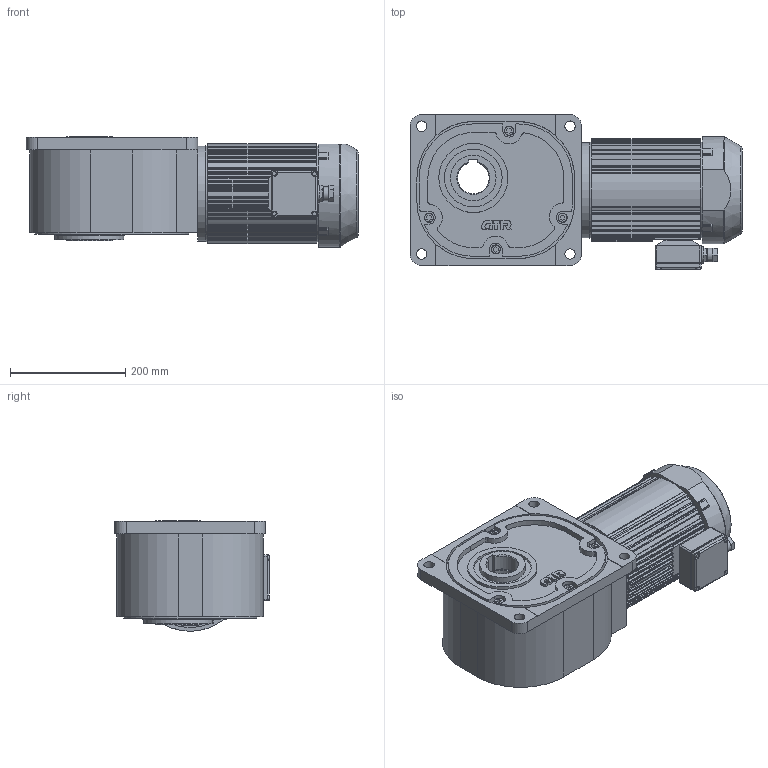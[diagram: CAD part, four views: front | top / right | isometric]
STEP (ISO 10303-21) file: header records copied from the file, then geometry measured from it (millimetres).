
FILE_DESCRIPTION( ( 'STEP AP203' ), ' ' );
FILE_NAME( 'p:/temp/worker_86/924_3324/app_90_12017041502123219605020260eae72_000000_00_00_000000/format_0/FS55N5N-IPG220NENNone.stp', '2017-04-15T00:12:34', ( '' ), ( '' ), ' ', 'PARTsolutions', ' ' );
FILE_SCHEMA( ( 'CONFIG_CONTROL_DESIGN' ) );
Length unit declared in the file: millimetre
Products named in the file (5): FS55N5N-IPG220NENNone; _FS55; HI_T220; HI_1522MW; _E-BOX010
Assembly tree (4 placements, depth 2):
  FS55N5N-IPG220NENNone
    _FS55
    HI_T220
    HI_1522MW
    _E-BOX010
Bounding box: 576.5 x 268.5 x 192 mm (x, y, z)
Volume: 17222140.2 mm3; surface area: 769026.5 mm2
Topology: 4 solids, 4 shells, 907 faces, 2450 edges, 1626 vertices
Faces by surface type: cylinder 452, plane 446, torus 6, cone 3
Full cylindrical faces by diameter (mm): 4.8 x4, 7 x4, 10.2 x4, 11 x1, 12 x1, 16 x4, 18 x4, 21 x1, 24 x1, 29 x1, 79 x2, 100 x2, 120 x2, 122 x1, 165 x1, 167 x2
Entity records: 28763 total; most frequent: DIRECTION 5117, CARTESIAN_POINT 5110, ORIENTED_EDGE 4796, EDGE_CURVE 2398, AXIS2_PLACEMENT_3D 1834, VERTEX_POINT 1615, LINE 1449, VECTOR 1449
